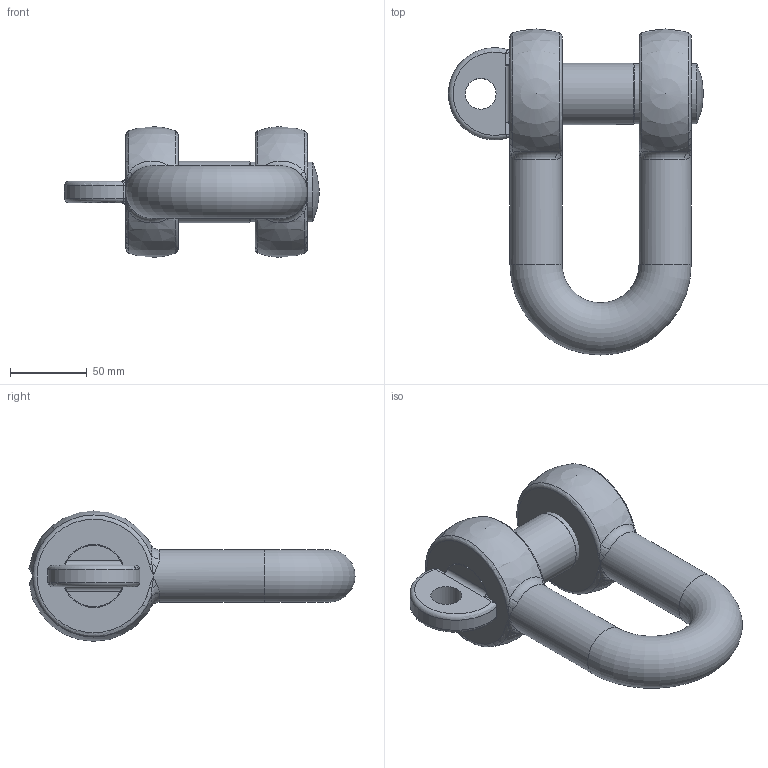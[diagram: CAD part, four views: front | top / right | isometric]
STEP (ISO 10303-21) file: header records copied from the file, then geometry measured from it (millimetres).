
FILE_DESCRIPTION(/* description */ (''),/* implementation_level */ '2;1');
FILE_NAME(/* name */ 'C:\Users\D\Documents\Inventor\HP\吊具\シャックル\SC_2\sc_34.stp',/* time_stamp */ '2024-11-14T11:46:28+09:00',/* author */ ('D'),/* organization */ (''),/* preprocessor_version */ 'ST-DEVELOPER v18',/* originating_system */ 'Autodesk Inventor 2020',/* authorisation */ '');
FILE_SCHEMA (('AUTOMOTIVE_DESIGN { 1 0 10303 214 3 1 1 }'));
Length unit declared in the file: millimetre
Products named in the file (3): sc_34; sb_6; bc-sc_pin_6
Assembly tree (2 placements, depth 2):
  sc_34
    sb_6
    bc-sc_pin_6
Bounding box: 166 x 212.19 x 85 mm (x, y, z)
Volume: 711524.4 mm3; surface area: 90599.6 mm2
Topology: 2 solids, 2 shells, 69 faces, 185 edges, 96 vertices
Faces by surface type: bspline 28, cylinder 16, torus 11, plane 10, sphere 3, cone 1
Full cylindrical faces by diameter (mm): 20 x1, 34 x2, 34.67 x1, 39 x1, 40 x1, 41 x1
Entity records: 3119 total; most frequent: CARTESIAN_POINT 1565, ORIENTED_EDGE 322, DIRECTION 278, EDGE_CURVE 161, AXIS2_PLACEMENT_3D 127, VERTEX_POINT 96, CIRCLE 81, EDGE_LOOP 75
